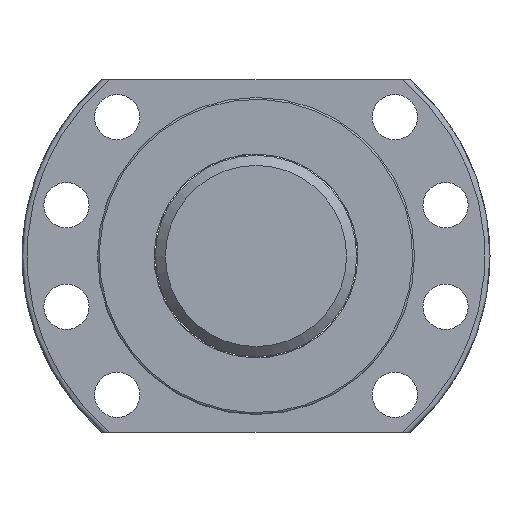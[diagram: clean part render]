
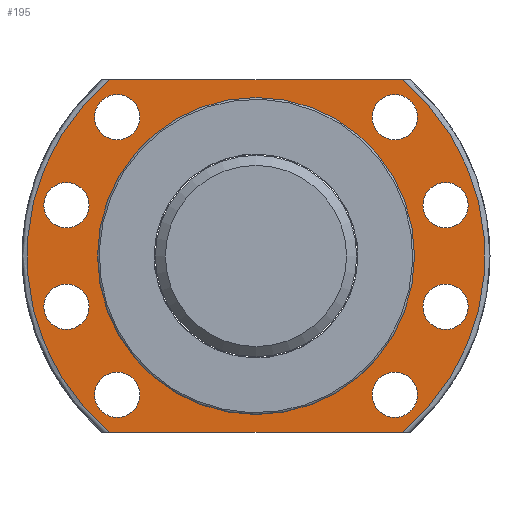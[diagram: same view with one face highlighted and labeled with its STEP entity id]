
A CAD part, left-side view. The second image highlights one B-rep face of the part: STEP entity #195.
In plain terms, the highlighted planar face has unit normal (-1, 0, 0).
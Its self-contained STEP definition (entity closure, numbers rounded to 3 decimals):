
#111=LINE('',#1370,#119);
#112=LINE('',#1374,#120);
#119=VECTOR('',#1081,1.);
#120=VECTOR('',#1084,1.);
#195=ADVANCED_FACE('',(#283,#284,#285,#286,#287,#288,#289,#290,#339,#291),
#231,.F.);
#231=PLANE('',#890);
#283=FACE_BOUND('',#409,.T.);
#284=FACE_BOUND('',#410,.T.);
#285=FACE_BOUND('',#411,.T.);
#286=FACE_BOUND('',#412,.T.);
#287=FACE_BOUND('',#413,.T.);
#288=FACE_BOUND('',#414,.T.);
#289=FACE_BOUND('',#415,.T.);
#290=FACE_BOUND('',#416,.T.);
#291=FACE_BOUND('',#418,.T.);
#339=FACE_OUTER_BOUND('',#417,.T.);
#409=EDGE_LOOP('',(#536));
#410=EDGE_LOOP('',(#537));
#411=EDGE_LOOP('',(#538));
#412=EDGE_LOOP('',(#539));
#413=EDGE_LOOP('',(#540));
#414=EDGE_LOOP('',(#541));
#415=EDGE_LOOP('',(#542));
#416=EDGE_LOOP('',(#543));
#417=EDGE_LOOP('',(#544,#545,#546,#547));
#418=EDGE_LOOP('',(#548));
#536=ORIENTED_EDGE('',*,*,#728,.T.);
#537=ORIENTED_EDGE('',*,*,#729,.T.);
#538=ORIENTED_EDGE('',*,*,#730,.T.);
#539=ORIENTED_EDGE('',*,*,#731,.T.);
#540=ORIENTED_EDGE('',*,*,#732,.T.);
#541=ORIENTED_EDGE('',*,*,#733,.T.);
#542=ORIENTED_EDGE('',*,*,#734,.T.);
#543=ORIENTED_EDGE('',*,*,#735,.T.);
#544=ORIENTED_EDGE('',*,*,#705,.T.);
#545=ORIENTED_EDGE('',*,*,#736,.T.);
#546=ORIENTED_EDGE('',*,*,#737,.T.);
#547=ORIENTED_EDGE('',*,*,#738,.T.);
#548=ORIENTED_EDGE('',*,*,#739,.F.);
#637=VERTEX_POINT('',#1250);
#638=VERTEX_POINT('',#1252);
#658=VERTEX_POINT('',#1355);
#659=VERTEX_POINT('',#1357);
#660=VERTEX_POINT('',#1359);
#661=VERTEX_POINT('',#1361);
#662=VERTEX_POINT('',#1363);
#663=VERTEX_POINT('',#1365);
#664=VERTEX_POINT('',#1367);
#665=VERTEX_POINT('',#1369);
#666=VERTEX_POINT('',#1371);
#667=VERTEX_POINT('',#1373);
#668=VERTEX_POINT('',#1376);
#705=EDGE_CURVE('',#638,#637,#777,.T.);
#728=EDGE_CURVE('',#658,#658,#793,.T.);
#729=EDGE_CURVE('',#659,#659,#794,.T.);
#730=EDGE_CURVE('',#660,#660,#795,.T.);
#731=EDGE_CURVE('',#661,#661,#796,.T.);
#732=EDGE_CURVE('',#662,#662,#797,.T.);
#733=EDGE_CURVE('',#663,#663,#798,.T.);
#734=EDGE_CURVE('',#664,#664,#799,.T.);
#735=EDGE_CURVE('',#665,#665,#800,.T.);
#736=EDGE_CURVE('',#637,#666,#111,.T.);
#737=EDGE_CURVE('',#666,#667,#801,.T.);
#738=EDGE_CURVE('',#667,#638,#112,.T.);
#739=EDGE_CURVE('',#668,#668,#802,.T.);
#777=CIRCLE('',#858,45.5);
#793=CIRCLE('',#880,4.5);
#794=CIRCLE('',#881,4.5);
#795=CIRCLE('',#882,4.5);
#796=CIRCLE('',#883,4.5);
#797=CIRCLE('',#884,4.5);
#798=CIRCLE('',#885,4.5);
#799=CIRCLE('',#886,4.5);
#800=CIRCLE('',#887,4.5);
#801=CIRCLE('',#888,45.5);
#802=CIRCLE('',#889,31.5);
#858=AXIS2_PLACEMENT_3D('',#1251,#1017,#1018);
#880=AXIS2_PLACEMENT_3D('',#1354,#1065,#1066);
#881=AXIS2_PLACEMENT_3D('',#1356,#1067,#1068);
#882=AXIS2_PLACEMENT_3D('',#1358,#1069,#1070);
#883=AXIS2_PLACEMENT_3D('',#1360,#1071,#1072);
#884=AXIS2_PLACEMENT_3D('',#1362,#1073,#1074);
#885=AXIS2_PLACEMENT_3D('',#1364,#1075,#1076);
#886=AXIS2_PLACEMENT_3D('',#1366,#1077,#1078);
#887=AXIS2_PLACEMENT_3D('',#1368,#1079,#1080);
#888=AXIS2_PLACEMENT_3D('',#1372,#1082,#1083);
#889=AXIS2_PLACEMENT_3D('',#1375,#1085,#1086);
#890=AXIS2_PLACEMENT_3D('',#1377,#1087,#1088);
#1017=DIRECTION('',(-1.,0.,0.));
#1018=DIRECTION('',(0.,0.,-1.));
#1065=DIRECTION('',(1.,0.,0.));
#1066=DIRECTION('',(0.,0.,-1.));
#1067=DIRECTION('',(1.,0.,0.));
#1068=DIRECTION('',(0.,0.,-1.));
#1069=DIRECTION('',(1.,0.,0.));
#1070=DIRECTION('',(0.,0.,-1.));
#1071=DIRECTION('',(1.,0.,0.));
#1072=DIRECTION('',(0.,0.,-1.));
#1073=DIRECTION('',(1.,0.,0.));
#1074=DIRECTION('',(0.,0.,-1.));
#1075=DIRECTION('',(1.,0.,0.));
#1076=DIRECTION('',(0.,0.,-1.));
#1077=DIRECTION('',(1.,0.,0.));
#1078=DIRECTION('',(0.,0.,-1.));
#1079=DIRECTION('',(1.,0.,0.));
#1080=DIRECTION('',(0.,0.,-1.));
#1081=DIRECTION('',(0.,1.,0.));
#1082=DIRECTION('',(-1.,0.,0.));
#1083=DIRECTION('',(0.,0.,-1.));
#1084=DIRECTION('',(0.,-1.,0.));
#1085=DIRECTION('',(-1.,0.,0.));
#1086=DIRECTION('',(0.,0.,1.));
#1087=DIRECTION('',(1.,0.,0.));
#1088=DIRECTION('',(0.,0.,-1.));
#1250=CARTESIAN_POINT('',(35.,-29.073,35.));
#1251=CARTESIAN_POINT('',(35.,0.,0.));
#1252=CARTESIAN_POINT('',(35.,-29.073,-35.));
#1354=CARTESIAN_POINT('',(35.,-27.577,-27.577));
#1355=CARTESIAN_POINT('',(35.,-27.577,-32.077));
#1356=CARTESIAN_POINT('',(35.,-37.671,-10.094));
#1357=CARTESIAN_POINT('',(35.,-37.671,-14.594));
#1358=CARTESIAN_POINT('',(35.,-37.671,10.094));
#1359=CARTESIAN_POINT('',(35.,-37.671,5.594));
#1360=CARTESIAN_POINT('',(35.,-27.577,27.577));
#1361=CARTESIAN_POINT('',(35.,-27.577,23.077));
#1362=CARTESIAN_POINT('',(35.,37.671,10.094));
#1363=CARTESIAN_POINT('',(35.,37.671,5.594));
#1364=CARTESIAN_POINT('',(35.,27.577,27.577));
#1365=CARTESIAN_POINT('',(35.,27.577,23.077));
#1366=CARTESIAN_POINT('',(35.,27.577,-27.577));
#1367=CARTESIAN_POINT('',(35.,27.577,-32.077));
#1368=CARTESIAN_POINT('',(35.,37.671,-10.094));
#1369=CARTESIAN_POINT('',(35.,37.671,-14.594));
#1370=CARTESIAN_POINT('',(35.,-22.162,35.));
#1371=CARTESIAN_POINT('',(35.,29.073,35.));
#1372=CARTESIAN_POINT('',(35.,0.,0.));
#1373=CARTESIAN_POINT('',(35.,29.073,-35.));
#1374=CARTESIAN_POINT('',(35.,-22.162,-35.));
#1375=CARTESIAN_POINT('',(35.,0.,0.));
#1376=CARTESIAN_POINT('',(35.,0.,31.5));
#1377=CARTESIAN_POINT('',(35.,-22.162,0.));
